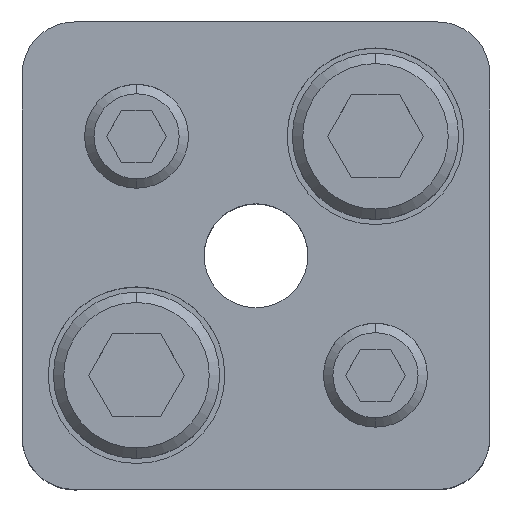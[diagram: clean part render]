
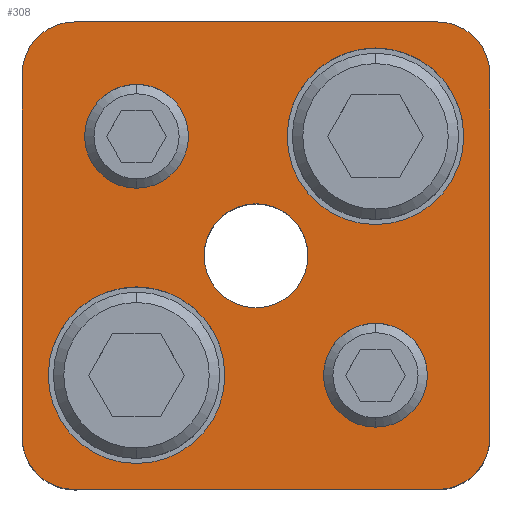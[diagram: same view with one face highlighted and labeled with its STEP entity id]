
A CAD part, top view. The second image highlights one B-rep face of the part: STEP entity #308.
In plain terms, the highlighted planar face has unit normal (0, 0, 1).
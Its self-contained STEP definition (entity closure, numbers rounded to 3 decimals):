
#165=PLANE('',#2567);
#228=FACE_BOUND('',#643,.T.);
#229=FACE_BOUND('',#644,.T.);
#230=FACE_BOUND('',#645,.T.);
#231=FACE_BOUND('',#646,.T.);
#232=FACE_BOUND('',#647,.T.);
#233=FACE_BOUND('',#648,.T.);
#308=ADVANCED_FACE('',(#228,#229,#230,#231,#232,#233),#165,.T.);
#643=EDGE_LOOP('',(#1335,#1336,#1337,#1338,#1339,#1340,#1341,#1342));
#644=EDGE_LOOP('',(#1343,#1344));
#645=EDGE_LOOP('',(#1345,#1346));
#646=EDGE_LOOP('',(#1347,#1348));
#647=EDGE_LOOP('',(#1349,#1350));
#648=EDGE_LOOP('',(#1351,#1352));
#806=LINE('',#3770,#988);
#807=LINE('',#3774,#989);
#808=LINE('',#3778,#990);
#809=LINE('',#3782,#991);
#988=VECTOR('',#3009,1.);
#989=VECTOR('',#3012,1.);
#990=VECTOR('',#3015,1.);
#991=VECTOR('',#3018,1.);
#1335=ORIENTED_EDGE('',*,*,#2102,.T.);
#1336=ORIENTED_EDGE('',*,*,#2103,.T.);
#1337=ORIENTED_EDGE('',*,*,#2104,.T.);
#1338=ORIENTED_EDGE('',*,*,#2105,.T.);
#1339=ORIENTED_EDGE('',*,*,#2106,.T.);
#1340=ORIENTED_EDGE('',*,*,#2107,.T.);
#1341=ORIENTED_EDGE('',*,*,#2108,.T.);
#1342=ORIENTED_EDGE('',*,*,#2109,.T.);
#1343=ORIENTED_EDGE('',*,*,#2110,.F.);
#1344=ORIENTED_EDGE('',*,*,#2111,.F.);
#1345=ORIENTED_EDGE('',*,*,#2112,.F.);
#1346=ORIENTED_EDGE('',*,*,#2113,.F.);
#1347=ORIENTED_EDGE('',*,*,#2088,.F.);
#1348=ORIENTED_EDGE('',*,*,#2084,.F.);
#1349=ORIENTED_EDGE('',*,*,#2082,.F.);
#1350=ORIENTED_EDGE('',*,*,#2078,.F.);
#1351=ORIENTED_EDGE('',*,*,#2114,.T.);
#1352=ORIENTED_EDGE('',*,*,#2115,.T.);
#1837=VERTEX_POINT('',#3718);
#1838=VERTEX_POINT('',#3719);
#1841=VERTEX_POINT('',#3731);
#1842=VERTEX_POINT('',#3732);
#1853=VERTEX_POINT('',#3768);
#1854=VERTEX_POINT('',#3769);
#1855=VERTEX_POINT('',#3771);
#1856=VERTEX_POINT('',#3773);
#1857=VERTEX_POINT('',#3775);
#1858=VERTEX_POINT('',#3777);
#1859=VERTEX_POINT('',#3779);
#1860=VERTEX_POINT('',#3781);
#1861=VERTEX_POINT('',#3784);
#1862=VERTEX_POINT('',#3785);
#1863=VERTEX_POINT('',#3788);
#1864=VERTEX_POINT('',#3789);
#1865=VERTEX_POINT('',#3792);
#1866=VERTEX_POINT('',#3793);
#2078=EDGE_CURVE('',#1837,#1838,#2355,.T.);
#2082=EDGE_CURVE('',#1838,#1837,#2357,.T.);
#2084=EDGE_CURVE('',#1841,#1842,#2359,.T.);
#2088=EDGE_CURVE('',#1842,#1841,#2361,.T.);
#2102=EDGE_CURVE('',#1853,#1854,#2371,.T.);
#2103=EDGE_CURVE('',#1854,#1855,#806,.T.);
#2104=EDGE_CURVE('',#1855,#1856,#2372,.T.);
#2105=EDGE_CURVE('',#1856,#1857,#807,.T.);
#2106=EDGE_CURVE('',#1857,#1858,#2373,.T.);
#2107=EDGE_CURVE('',#1858,#1859,#808,.T.);
#2108=EDGE_CURVE('',#1859,#1860,#2374,.T.);
#2109=EDGE_CURVE('',#1860,#1853,#809,.T.);
#2110=EDGE_CURVE('',#1861,#1862,#2375,.T.);
#2111=EDGE_CURVE('',#1862,#1861,#2376,.T.);
#2112=EDGE_CURVE('',#1863,#1864,#2377,.T.);
#2113=EDGE_CURVE('',#1864,#1863,#2378,.T.);
#2114=EDGE_CURVE('',#1865,#1866,#2379,.T.);
#2115=EDGE_CURVE('',#1866,#1865,#2380,.T.);
#2355=CIRCLE('',#2531,5.);
#2357=CIRCLE('',#2534,5.);
#2359=CIRCLE('',#2538,5.);
#2361=CIRCLE('',#2541,5.);
#2371=CIRCLE('',#2557,5.);
#2372=CIRCLE('',#2558,5.);
#2373=CIRCLE('',#2559,5.);
#2374=CIRCLE('',#2560,5.);
#2375=CIRCLE('',#2561,8.5);
#2376=CIRCLE('',#2562,8.5);
#2377=CIRCLE('',#2563,8.5);
#2378=CIRCLE('',#2564,8.5);
#2379=CIRCLE('',#2565,5.);
#2380=CIRCLE('',#2566,5.);
#2531=AXIS2_PLACEMENT_3D('',#3717,#2947,#2948);
#2534=AXIS2_PLACEMENT_3D('',#3726,#2955,#2956);
#2538=AXIS2_PLACEMENT_3D('',#3730,#2963,#2964);
#2541=AXIS2_PLACEMENT_3D('',#3739,#2971,#2972);
#2557=AXIS2_PLACEMENT_3D('',#3767,#3007,#3008);
#2558=AXIS2_PLACEMENT_3D('',#3772,#3010,#3011);
#2559=AXIS2_PLACEMENT_3D('',#3776,#3013,#3014);
#2560=AXIS2_PLACEMENT_3D('',#3780,#3016,#3017);
#2561=AXIS2_PLACEMENT_3D('',#3783,#3019,#3020);
#2562=AXIS2_PLACEMENT_3D('',#3786,#3021,#3022);
#2563=AXIS2_PLACEMENT_3D('',#3787,#3023,#3024);
#2564=AXIS2_PLACEMENT_3D('',#3790,#3025,#3026);
#2565=AXIS2_PLACEMENT_3D('',#3791,#3027,#3028);
#2566=AXIS2_PLACEMENT_3D('',#3794,#3029,#3030);
#2567=AXIS2_PLACEMENT_3D('',#3795,#3031,#3032);
#2947=DIRECTION('',(0.,0.,1.));
#2948=DIRECTION('',(-1.,0.,0.));
#2955=DIRECTION('',(0.,0.,1.));
#2956=DIRECTION('',(1.,0.,0.));
#2963=DIRECTION('',(0.,0.,1.));
#2964=DIRECTION('',(-1.,0.,0.));
#2971=DIRECTION('',(0.,0.,1.));
#2972=DIRECTION('',(1.,0.,0.));
#3007=DIRECTION('',(0.,0.,1.));
#3008=DIRECTION('',(-0.707,0.707,0.));
#3009=DIRECTION('',(0.,1.,0.));
#3010=DIRECTION('',(0.,0.,1.));
#3011=DIRECTION('',(-0.707,-0.707,0.));
#3012=DIRECTION('',(-1.,0.,0.));
#3013=DIRECTION('',(0.,0.,1.));
#3014=DIRECTION('',(0.707,-0.707,0.));
#3015=DIRECTION('',(0.,-1.,0.));
#3016=DIRECTION('',(0.,0.,1.));
#3017=DIRECTION('',(0.707,0.707,0.));
#3018=DIRECTION('',(1.,0.,0.));
#3019=DIRECTION('',(0.,0.,1.));
#3020=DIRECTION('',(1.,0.,0.));
#3021=DIRECTION('',(0.,0.,1.));
#3022=DIRECTION('',(-1.,0.,0.));
#3023=DIRECTION('',(0.,0.,1.));
#3024=DIRECTION('',(1.,0.,0.));
#3025=DIRECTION('',(0.,0.,1.));
#3026=DIRECTION('',(-1.,0.,0.));
#3027=DIRECTION('',(0.,0.,-1.));
#3028=DIRECTION('',(-1.,0.,0.));
#3029=DIRECTION('',(0.,0.,-1.));
#3030=DIRECTION('',(1.,0.,0.));
#3031=DIRECTION('',(0.,0.,1.));
#3032=DIRECTION('',(-1.,0.,0.));
#3717=CARTESIAN_POINT('',(11.5,-11.5,30.));
#3718=CARTESIAN_POINT('',(11.5,-16.5,30.));
#3719=CARTESIAN_POINT('',(11.5,-6.5,30.));
#3726=CARTESIAN_POINT('',(11.5,-11.5,30.));
#3730=CARTESIAN_POINT('',(-11.5,11.5,30.));
#3731=CARTESIAN_POINT('',(-11.5,6.5,30.));
#3732=CARTESIAN_POINT('',(-11.5,16.5,30.));
#3739=CARTESIAN_POINT('',(-11.5,11.5,30.));
#3767=CARTESIAN_POINT('',(17.5,-17.5,30.));
#3768=CARTESIAN_POINT('',(17.5,-22.5,30.));
#3769=CARTESIAN_POINT('',(22.5,-17.5,30.));
#3770=CARTESIAN_POINT('',(22.5,17.5,30.));
#3771=CARTESIAN_POINT('',(22.5,17.5,30.));
#3772=CARTESIAN_POINT('',(17.5,17.5,30.));
#3773=CARTESIAN_POINT('',(17.5,22.5,30.));
#3774=CARTESIAN_POINT('',(-17.5,22.5,30.));
#3775=CARTESIAN_POINT('',(-17.5,22.5,30.));
#3776=CARTESIAN_POINT('',(-17.5,17.5,30.));
#3777=CARTESIAN_POINT('',(-22.5,17.5,30.));
#3778=CARTESIAN_POINT('',(-22.5,17.5,30.));
#3779=CARTESIAN_POINT('',(-22.5,-17.5,30.));
#3780=CARTESIAN_POINT('',(-17.5,-17.5,30.));
#3781=CARTESIAN_POINT('',(-17.5,-22.5,30.));
#3782=CARTESIAN_POINT('',(-17.5,-22.5,30.));
#3783=CARTESIAN_POINT('',(11.5,11.5,30.));
#3784=CARTESIAN_POINT('',(11.5,20.,30.));
#3785=CARTESIAN_POINT('',(11.5,3.,30.));
#3786=CARTESIAN_POINT('',(11.5,11.5,30.));
#3787=CARTESIAN_POINT('',(-11.5,-11.5,30.));
#3788=CARTESIAN_POINT('',(-11.5,-3.,30.));
#3789=CARTESIAN_POINT('',(-11.5,-20.,30.));
#3790=CARTESIAN_POINT('',(-11.5,-11.5,30.));
#3791=CARTESIAN_POINT('',(0.,0.,30.));
#3792=CARTESIAN_POINT('',(0.,5.,30.));
#3793=CARTESIAN_POINT('',(0.,-5.,30.));
#3794=CARTESIAN_POINT('',(0.,0.,30.));
#3795=CARTESIAN_POINT('',(17.5,-22.5,30.));
